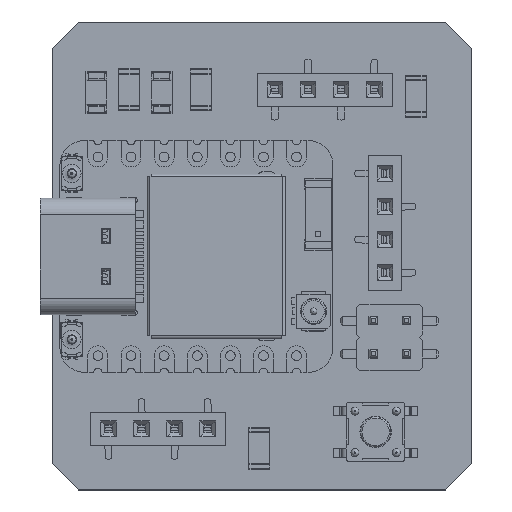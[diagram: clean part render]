
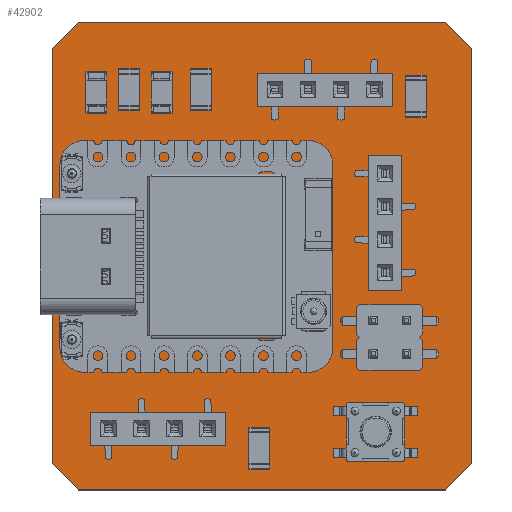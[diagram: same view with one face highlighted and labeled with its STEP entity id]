
A CAD part, top view. The second image highlights one B-rep face of the part: STEP entity #42902.
In plain terms, the highlighted planar face has unit normal (0, 0, 1).
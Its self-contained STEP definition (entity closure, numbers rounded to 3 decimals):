
#42645 = VERTEX_POINT('',#42646);
#42646 = CARTESIAN_POINT('',(130.3,-60.3,1.51));
#42652 = EDGE_CURVE('',#42645,#42653,#42655,.T.);
#42653 = VERTEX_POINT('',#42654);
#42654 = CARTESIAN_POINT('',(130.3,-92.2,1.51));
#42655 = LINE('',#42656,#42657);
#42656 = CARTESIAN_POINT('',(130.3,-60.3,1.51));
#42657 = VECTOR('',#42658,1.);
#42658 = DIRECTION('',(0.,-1.,0.));
#42683 = EDGE_CURVE('',#42653,#42684,#42686,.T.);
#42684 = VERTEX_POINT('',#42685);
#42685 = CARTESIAN_POINT('',(128.3,-94.2,1.51));
#42686 = LINE('',#42687,#42688);
#42687 = CARTESIAN_POINT('',(130.3,-92.2,1.51));
#42688 = VECTOR('',#42689,1.);
#42689 = DIRECTION('',(-0.707,-0.707,0.));
#42714 = EDGE_CURVE('',#42684,#42715,#42717,.T.);
#42715 = VERTEX_POINT('',#42716);
#42716 = CARTESIAN_POINT('',(100.1,-94.2,1.51));
#42717 = LINE('',#42718,#42719);
#42718 = CARTESIAN_POINT('',(128.3,-94.2,1.51));
#42719 = VECTOR('',#42720,1.);
#42720 = DIRECTION('',(-1.,0.,0.));
#42745 = EDGE_CURVE('',#42715,#42746,#42748,.T.);
#42746 = VERTEX_POINT('',#42747);
#42747 = CARTESIAN_POINT('',(98.1,-92.2,1.51));
#42748 = LINE('',#42749,#42750);
#42749 = CARTESIAN_POINT('',(100.1,-94.2,1.51));
#42750 = VECTOR('',#42751,1.);
#42751 = DIRECTION('',(-0.707,0.707,0.));
#42776 = EDGE_CURVE('',#42746,#42777,#42779,.T.);
#42777 = VERTEX_POINT('',#42778);
#42778 = CARTESIAN_POINT('',(98.1,-60.3,1.51));
#42779 = LINE('',#42780,#42781);
#42780 = CARTESIAN_POINT('',(98.1,-92.2,1.51));
#42781 = VECTOR('',#42782,1.);
#42782 = DIRECTION('',(0.,1.,0.));
#42807 = EDGE_CURVE('',#42777,#42808,#42810,.T.);
#42808 = VERTEX_POINT('',#42809);
#42809 = CARTESIAN_POINT('',(100.1,-58.3,1.51));
#42810 = LINE('',#42811,#42812);
#42811 = CARTESIAN_POINT('',(98.1,-60.3,1.51));
#42812 = VECTOR('',#42813,1.);
#42813 = DIRECTION('',(0.707,0.707,0.));
#42838 = EDGE_CURVE('',#42808,#42839,#42841,.T.);
#42839 = VERTEX_POINT('',#42840);
#42840 = CARTESIAN_POINT('',(128.3,-58.3,1.51));
#42841 = LINE('',#42842,#42843);
#42842 = CARTESIAN_POINT('',(100.1,-58.3,1.51));
#42843 = VECTOR('',#42844,1.);
#42844 = DIRECTION('',(1.,0.,0.));
#42869 = EDGE_CURVE('',#42839,#42645,#42870,.T.);
#42870 = LINE('',#42871,#42872);
#42871 = CARTESIAN_POINT('',(128.3,-58.3,1.51));
#42872 = VECTOR('',#42873,1.);
#42873 = DIRECTION('',(0.707,-0.707,0.));
#42902 = ADVANCED_FACE('',(#42903),#42913,.T.);
#42903 = FACE_BOUND('',#42904,.F.);
#42904 = EDGE_LOOP('',(#42905,#42906,#42907,#42908,#42909,#42910,#42911,
    #42912));
#42905 = ORIENTED_EDGE('',*,*,#42652,.T.);
#42906 = ORIENTED_EDGE('',*,*,#42683,.T.);
#42907 = ORIENTED_EDGE('',*,*,#42714,.T.);
#42908 = ORIENTED_EDGE('',*,*,#42745,.T.);
#42909 = ORIENTED_EDGE('',*,*,#42776,.T.);
#42910 = ORIENTED_EDGE('',*,*,#42807,.T.);
#42911 = ORIENTED_EDGE('',*,*,#42838,.T.);
#42912 = ORIENTED_EDGE('',*,*,#42869,.T.);
#42913 = PLANE('',#42914);
#42914 = AXIS2_PLACEMENT_3D('',#42915,#42916,#42917);
#42915 = CARTESIAN_POINT('',(0.,0.,1.51));
#42916 = DIRECTION('',(0.,0.,1.));
#42917 = DIRECTION('',(1.,0.,-0.));
